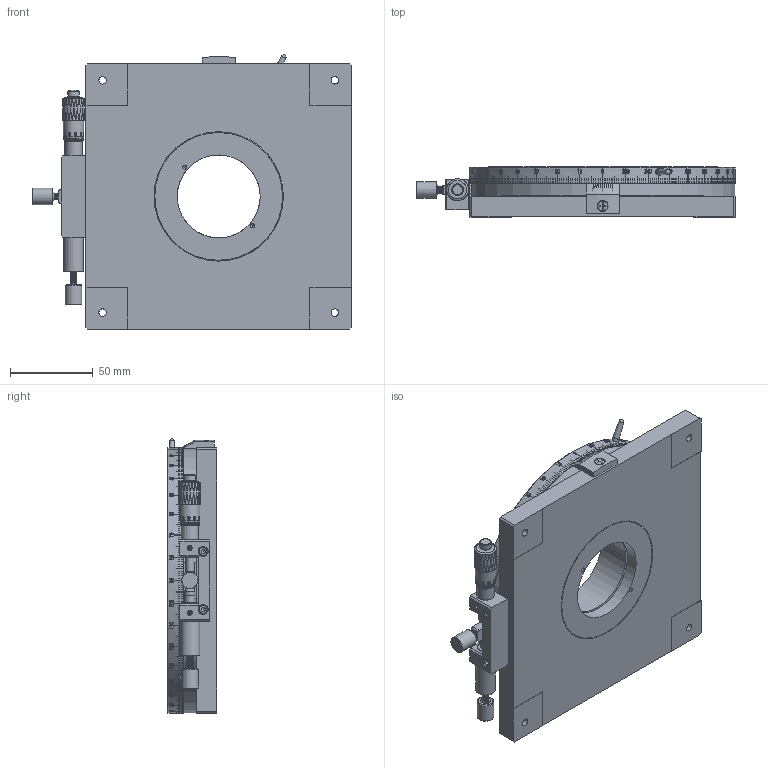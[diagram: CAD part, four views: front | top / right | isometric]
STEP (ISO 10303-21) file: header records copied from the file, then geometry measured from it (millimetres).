
FILE_DESCRIPTION (( 'STEP AP203' ), '1' );
FILE_NAME ('BPR160.STEP', '2024-07-09T12:28:50', ( 'Windows User' ), ( 'P R C' ), 'SwSTEP 2.0', 'SolidWorks 2024', '' );
FILE_SCHEMA (( 'CONFIG_CONTROL_DESIGN' ));
Products named in the file (1): BPR160
Bounding box: 192.2 x 30 x 165.33 mm (x, y, z)
Volume: 604614.7 mm3; surface area: 182826.5 mm2
Topology: 23 solids, 23 shells, 4973 faces, 13484 edges, 8933 vertices
Faces by surface type: bspline 2319, plane 1541, cylinder 846, cone 252, torus 12, sphere 3
Full cylindrical faces by diameter (mm): 2.05 x2, 2.5 x9, 2.6 x1, 2.8 x1, 2.85 x1, 2.9 x2, 3 x5, 3.2 x1, 3.3 x18, 3.4 x3, 4 x2, 4.5 x4, 5 x6, 5.3 x1, 5.5 x2, 6 x5, 7 x2, 8 x4, 8.5 x2, 8.8 x1, 9.5 x6, 10 x2, 10.5 x2, 12 x1, 12.2 x2, 50 x2, 54.5 x1, 55 x1, 60 x2, 67 x1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
Entity records: 383940 total; most frequent: CARTESIAN_POINT 279460, ORIENTED_EDGE 26506, EDGE_CURVE 13253, DIRECTION 13172, VERTEX_POINT 8870, B_SPLINE_CURVE_WITH_KNOTS 7386, EDGE_LOOP 5597, FACE_OUTER_BOUND 5091
